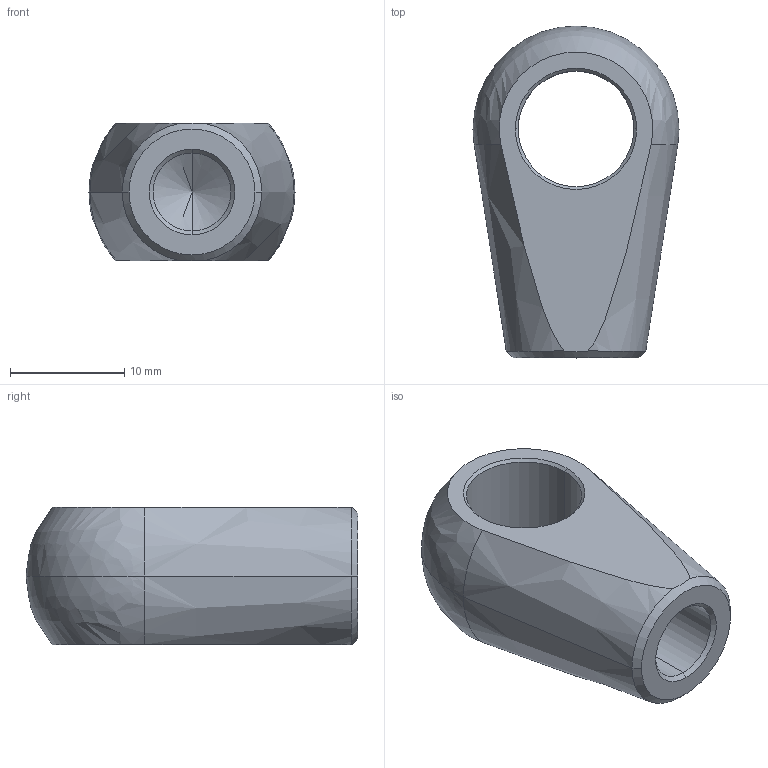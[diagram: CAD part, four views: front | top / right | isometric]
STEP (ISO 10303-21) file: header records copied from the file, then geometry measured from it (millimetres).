
FILE_DESCRIPTION (( 'STEP AP214' ), '1' );
FILE_NAME ('18.08L20ZAMAC.STEP', '2017-11-09T11:43:00', ( '' ), ( '' ), 'SwSTEP 2.0', 'SolidWorks 2016', '' );
FILE_SCHEMA (( 'AUTOMOTIVE_DESIGN' ));
Length unit declared in the file: millimetre
Products named in the file (1): 18.08L20ZAMAC
Bounding box: 18 x 29 x 12 mm (x, y, z)
Volume: 3032.3 mm3; surface area: 1989 mm2
Topology: 1 solids, 1 shells, 22 faces, 56 edges, 31 vertices
Faces by surface type: cone 13, cylinder 4, plane 3, bspline 2
Entity records: 841 total; most frequent: CARTESIAN_POINT 306, DIRECTION 111, ORIENTED_EDGE 100, EDGE_CURVE 50, AXIS2_PLACEMENT_3D 48, VERTEX_POINT 31, CIRCLE 27, EDGE_LOOP 25
